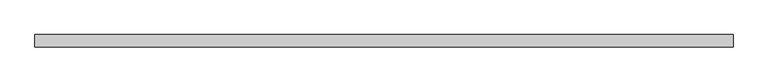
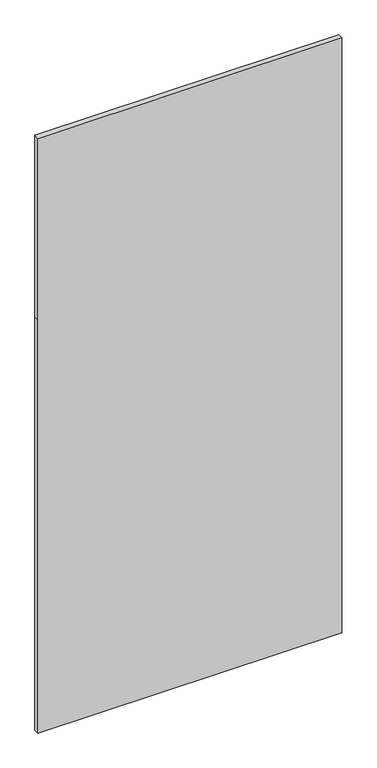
"""IFC4 building model written with IfcOpenShell, lengths in millimetres: plate geometry, Системная панель : С остеклением."""

from ifc_helpers import new_model, si_unit, frame, origin, place, context, project, spatial, polyline, outline, extrude, source, transform, mapped, element, save


def plate_a048b51d(model_context):
    return source(origin(), model_context, "Body", "SweptSolid", [
        extrude(outline(polyline([(0.0, -712.5), (0.0, 712.5), (2050.0, 712.5), (2950.0, 712.5), (2950.0, -712.5), (2050.0, -712.5), (0.0, -712.5)])), frame((0.0, 24.5, 0.0), z_axis=(0.0, 1.0, 0.0), x_axis=(0.0, 0.0, 1.0)), (0.0, 0.0, 1.0), 25.0),
    ])


if __name__ == "__main__":
    model = new_model("IFC4")
    model_context = context("Model", 3, world=origin())
    ifc_project = project(units=[si_unit("LENGTHUNIT", "METRE", prefix="MILLI")], contexts=[model_context])
    site = spatial("IfcSite", under=ifc_project)
    building = spatial("IfcBuilding", under=site)
    placement = place(None, origin())
    plate_shape = plate_a048b51d(model_context)
    element("IfcPlate", 1, ObjectType="Системная панель : С остеклением", at=placement, inside=building, context=model_context, shape_type="MappedRepresentation", body=[
        mapped(plate_shape, transform((0.0, 0.0, 0.0), x_axis=(1.0, 0.0, 0.0), y_axis=(0.0, 1.0, 0.0), z_axis=(0.0, 0.0, 1.0))),
    ])
    save(model, "model.ifc")
